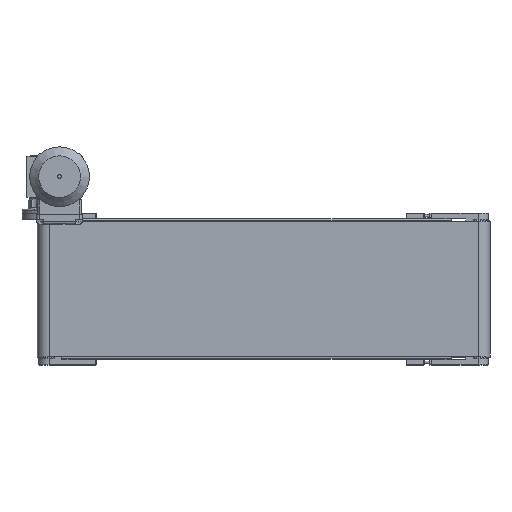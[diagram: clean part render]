
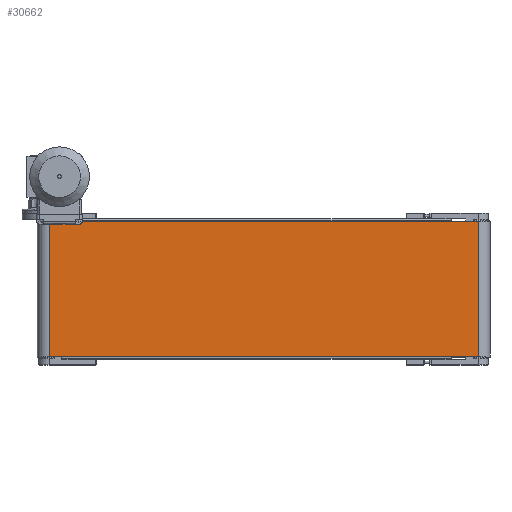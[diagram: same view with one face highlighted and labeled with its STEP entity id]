
A CAD part, top view. The second image highlights one B-rep face of the part: STEP entity #30662.
In plain terms, the highlighted planar face has unit normal (0, 0, 1).
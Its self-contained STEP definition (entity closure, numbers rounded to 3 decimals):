
#420 = CARTESIAN_POINT ( 'NONE',  ( 26., 300., 26. ) ) ;
#547 = EDGE_CURVE ( 'NONE', #11493, #4850, #1002, .T. ) ;
#627 = LINE ( 'NONE', #20539, #2427 ) ;
#1002 = LINE ( 'NONE', #24148, #30948 ) ;
#1330 = DIRECTION ( 'NONE',  ( -1., 0., 0. ) ) ;
#1778 = ORIENTED_EDGE ( 'NONE', *, *, #28597, .F. ) ;
#2224 = DIRECTION ( 'NONE',  ( 0., -1., 0. ) ) ;
#2427 = VECTOR ( 'NONE', #9152, 1000. ) ;
#3103 = CARTESIAN_POINT ( 'NONE',  ( 26., 0., 26. ) ) ;
#3592 = EDGE_LOOP ( 'NONE', ( #12249, #1778, #6023, #30260 ) ) ;
#4850 = VERTEX_POINT ( 'NONE', #6706 ) ;
#5422 = CARTESIAN_POINT ( 'NONE',  ( 974., 300., 26. ) ) ;
#6023 = ORIENTED_EDGE ( 'NONE', *, *, #22238, .F. ) ;
#6169 = VERTEX_POINT ( 'NONE', #17477 ) ;
#6706 = CARTESIAN_POINT ( 'NONE',  ( 26., 0., 26. ) ) ;
#7234 = DIRECTION ( 'NONE',  ( 0., -1., 0. ) ) ;
#7389 = CARTESIAN_POINT ( 'NONE',  ( 26., 300., 26. ) ) ;
#7596 = FACE_OUTER_BOUND ( 'NONE', #3592, .T. ) ;
#9152 = DIRECTION ( 'NONE',  ( 1., 0., 0. ) ) ;
#10073 = PLANE ( 'NONE',  #36624 ) ;
#10737 = LINE ( 'NONE', #3103, #30320 ) ;
#11493 = VERTEX_POINT ( 'NONE', #420 ) ;
#12045 = DIRECTION ( 'NONE',  ( 1., 0., 0. ) ) ;
#12249 = ORIENTED_EDGE ( 'NONE', *, *, #16645, .T. ) ;
#16645 = EDGE_CURVE ( 'NONE', #4850, #34033, #10737, .T. ) ;
#17477 = CARTESIAN_POINT ( 'NONE',  ( 974., 300., 26. ) ) ;
#20539 = CARTESIAN_POINT ( 'NONE',  ( 26., 300., 26. ) ) ;
#22001 = DIRECTION ( 'NONE',  ( 0., 0., -1. ) ) ;
#22238 = EDGE_CURVE ( 'NONE', #11493, #6169, #627, .T. ) ;
#23063 = LINE ( 'NONE', #5422, #25015 ) ;
#24148 = CARTESIAN_POINT ( 'NONE',  ( 26., 300., 26. ) ) ;
#25015 = VECTOR ( 'NONE', #2224, 1000. ) ;
#28597 = EDGE_CURVE ( 'NONE', #6169, #34033, #23063, .T. ) ;
#30260 = ORIENTED_EDGE ( 'NONE', *, *, #547, .T. ) ;
#30320 = VECTOR ( 'NONE', #12045, 1000. ) ;
#30662 = ADVANCED_FACE ( 'NONE', ( #7596 ), #10073, .F. ) ;
#30948 = VECTOR ( 'NONE', #7234, 1000. ) ;
#33989 = CARTESIAN_POINT ( 'NONE',  ( 974., 0., 26. ) ) ;
#34033 = VERTEX_POINT ( 'NONE', #33989 ) ;
#36624 = AXIS2_PLACEMENT_3D ( 'NONE', #7389, #22001, #1330 ) ;
